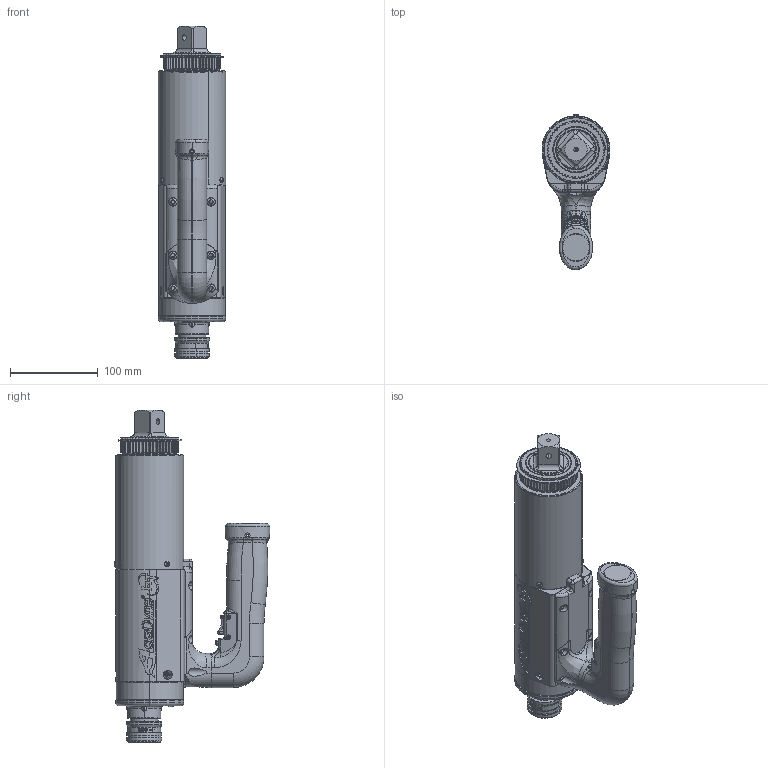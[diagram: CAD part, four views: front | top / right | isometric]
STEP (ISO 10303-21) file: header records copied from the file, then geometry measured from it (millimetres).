
FILE_DESCRIPTION (( 'STEP AP214' ), '1' );
FILE_NAME ('AEJ4A771000B.STEP', '2022-07-18T21:47:46', ( '' ), ( '' ), 'SwSTEP 2.0', 'SolidWorks 2022', '' );
FILE_SCHEMA (( 'AUTOMOTIVE_DESIGN' ));
Length unit declared in the file: inch
Products named in the file (1): AEJ4A771000B
Bounding box: 77.47 x 177.48 x 378.82 mm (x, y, z)
Surface area: 201654.6 mm2 (no closed solid volume)
Topology: 0 solids, 74 shells, 1274 faces, 4959 edges, 3555 vertices
Faces by surface type: cylinder 434, plane 365, bspline 224, torus 140, cone 103, sphere 8
Entity records: 125605 total; most frequent: CARTESIAN_POINT 71973, ORIENTED_EDGE 7781, DIRECTION 6616, EDGE_CURVE 4953, VERTEX_POINT 3555, AXIS2_PLACEMENT_3D 2445, VECTOR 1726, LINE 1726
